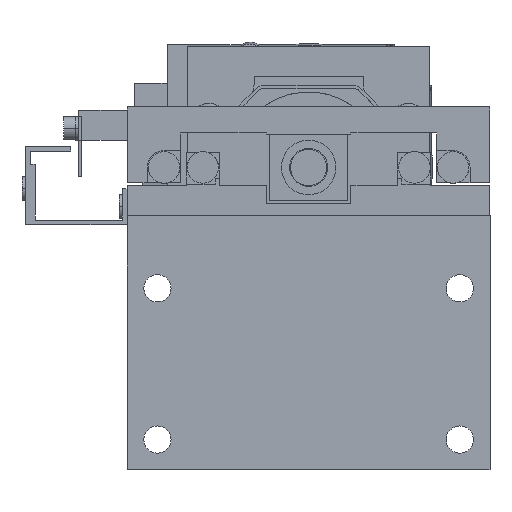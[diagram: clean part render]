
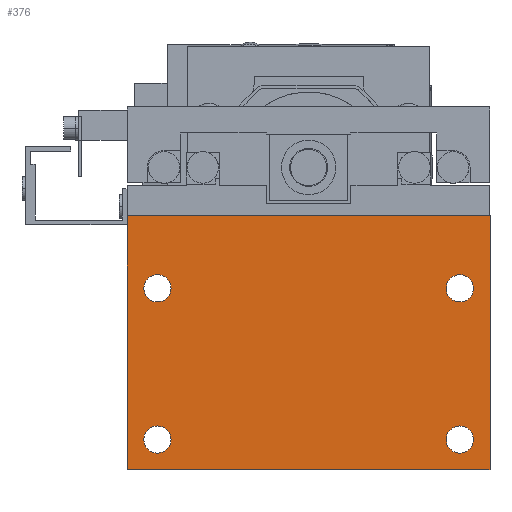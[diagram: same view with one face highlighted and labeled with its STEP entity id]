
A CAD part, front view. The second image highlights one B-rep face of the part: STEP entity #376.
In plain terms, the highlighted planar face has unit normal (0, -1, 0).
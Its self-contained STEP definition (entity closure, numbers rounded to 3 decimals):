
#376=ADVANCED_FACE('',(#1119,#1120,#1121,#1122,#1123),#1124,.F.);
#1119=FACE_BOUND('',#2691,.T.);
#1120=FACE_BOUND('',#2692,.T.);
#1121=FACE_BOUND('',#2693,.T.);
#1122=FACE_BOUND('',#2694,.T.);
#1123=FACE_OUTER_BOUND('',#2695,.T.);
#1124=PLANE('',#2696);
#2691=EDGE_LOOP('',(#4491,#4492));
#2692=EDGE_LOOP('',(#4493,#4494));
#2693=EDGE_LOOP('',(#4495,#4496));
#2694=EDGE_LOOP('',(#4497,#4498));
#2695=EDGE_LOOP('',(#4499,#4500,#4501,#4502));
#2696=AXIS2_PLACEMENT_3D('',#4503,#4504,#4505);
#4491=ORIENTED_EDGE('',*,*,#10308,.F.);
#4492=ORIENTED_EDGE('',*,*,#10259,.F.);
#4493=ORIENTED_EDGE('',*,*,#10309,.F.);
#4494=ORIENTED_EDGE('',*,*,#10291,.F.);
#4495=ORIENTED_EDGE('',*,*,#10310,.F.);
#4496=ORIENTED_EDGE('',*,*,#10299,.F.);
#4497=ORIENTED_EDGE('',*,*,#10311,.F.);
#4498=ORIENTED_EDGE('',*,*,#10295,.F.);
#4499=ORIENTED_EDGE('',*,*,#10312,.T.);
#4500=ORIENTED_EDGE('',*,*,#10313,.F.);
#4501=ORIENTED_EDGE('',*,*,#10314,.F.);
#4502=ORIENTED_EDGE('',*,*,#10305,.T.);
#4503=CARTESIAN_POINT('',(-30.0,0.0,-19.0));
#4504=DIRECTION('',(0.0,1.0,0.0));
#4505=DIRECTION('',(-1.0,0.0,0.0));
#10259=EDGE_CURVE('',#12109,#12105,#12111,.T.);
#10291=EDGE_CURVE('',#12173,#12169,#12175,.T.);
#10295=EDGE_CURVE('',#12181,#12177,#12183,.T.);
#10299=EDGE_CURVE('',#12189,#12185,#12191,.T.);
#10305=EDGE_CURVE('',#12203,#12201,#12204,.T.);
#10308=EDGE_CURVE('',#12105,#12109,#12208,.T.);
#10309=EDGE_CURVE('',#12169,#12173,#12209,.T.);
#10310=EDGE_CURVE('',#12185,#12189,#12210,.T.);
#10311=EDGE_CURVE('',#12177,#12181,#12211,.T.);
#10312=EDGE_CURVE('',#12201,#12212,#12213,.T.);
#10313=EDGE_CURVE('',#12214,#12212,#12215,.T.);
#10314=EDGE_CURVE('',#12203,#12214,#12216,.T.);
#12105=VERTEX_POINT('',#15138);
#12109=VERTEX_POINT('',#15143);
#12111=CIRCLE('',#15146,2.25);
#12169=VERTEX_POINT('',#15218);
#12173=VERTEX_POINT('',#15223);
#12175=CIRCLE('',#15226,2.25);
#12177=VERTEX_POINT('',#15228);
#12181=VERTEX_POINT('',#15233);
#12183=CIRCLE('',#15236,2.25);
#12185=VERTEX_POINT('',#15238);
#12189=VERTEX_POINT('',#15243);
#12191=CIRCLE('',#15246,2.25);
#12201=VERTEX_POINT('',#15258);
#12203=VERTEX_POINT('',#15261);
#12204=LINE('',#15262,#15263);
#12208=CIRCLE('',#15269,2.25);
#12209=CIRCLE('',#15270,2.25);
#12210=CIRCLE('',#15271,2.25);
#12211=CIRCLE('',#15272,2.25);
#12212=VERTEX_POINT('',#15273);
#12213=LINE('',#15274,#15275);
#12214=VERTEX_POINT('',#15276);
#12215=LINE('',#15277,#15278);
#12216=LINE('',#15279,#15280);
#15138=CARTESIAN_POINT('',(25.0,0.0,13.25));
#15143=CARTESIAN_POINT('',(25.0,0.0,8.75));
#15146=AXIS2_PLACEMENT_3D('',#19560,#19561,#19562);
#15218=CARTESIAN_POINT('',(-25.0,0.0,-11.75));
#15223=CARTESIAN_POINT('',(-25.0,0.0,-16.25));
#15226=AXIS2_PLACEMENT_3D('',#19624,#19625,#19626);
#15228=CARTESIAN_POINT('',(-25.0,0.0,13.25));
#15233=CARTESIAN_POINT('',(-25.0,0.0,8.75));
#15236=AXIS2_PLACEMENT_3D('',#19632,#19633,#19634);
#15238=CARTESIAN_POINT('',(25.0,0.0,-11.75));
#15243=CARTESIAN_POINT('',(25.0,0.0,-16.25));
#15246=AXIS2_PLACEMENT_3D('',#19640,#19641,#19642);
#15258=CARTESIAN_POINT('',(30.0,0.0,-19.0));
#15261=CARTESIAN_POINT('',(-30.0,0.0,-19.0));
#15262=CARTESIAN_POINT('',(-30.0,0.0,-19.0));
#15263=VECTOR('',#19652,1000.0);
#15269=AXIS2_PLACEMENT_3D('',#19655,#19656,#19657);
#15270=AXIS2_PLACEMENT_3D('',#19658,#19659,#19660);
#15271=AXIS2_PLACEMENT_3D('',#19661,#19662,#19663);
#15272=AXIS2_PLACEMENT_3D('',#19664,#19665,#19666);
#15273=CARTESIAN_POINT('',(30.0,0.0,23.0));
#15274=CARTESIAN_POINT('',(30.0,0.0,-19.0));
#15275=VECTOR('',#19667,1000.0);
#15276=CARTESIAN_POINT('',(-30.0,0.0,23.0));
#15277=CARTESIAN_POINT('',(-30.0,0.0,23.0));
#15278=VECTOR('',#19668,1000.0);
#15279=CARTESIAN_POINT('',(-30.0,0.0,-19.0));
#15280=VECTOR('',#19669,1000.0);
#19560=CARTESIAN_POINT('',(25.0,0.0,11.0));
#19561=DIRECTION('',(0.0,-1.0,0.0));
#19562=DIRECTION('',(0.0,0.0,1.0));
#19624=CARTESIAN_POINT('',(-25.0,0.0,-14.0));
#19625=DIRECTION('',(0.0,-1.0,0.0));
#19626=DIRECTION('',(0.0,0.0,1.0));
#19632=CARTESIAN_POINT('',(-25.0,0.0,11.0));
#19633=DIRECTION('',(0.0,-1.0,0.0));
#19634=DIRECTION('',(0.0,0.0,1.0));
#19640=CARTESIAN_POINT('',(25.0,0.0,-14.0));
#19641=DIRECTION('',(0.0,-1.0,0.0));
#19642=DIRECTION('',(0.0,0.0,1.0));
#19652=DIRECTION('',(1.0,0.0,0.0));
#19655=CARTESIAN_POINT('',(25.0,0.0,11.0));
#19656=DIRECTION('',(0.0,-1.0,0.0));
#19657=DIRECTION('',(0.0,0.0,1.0));
#19658=CARTESIAN_POINT('',(-25.0,0.0,-14.0));
#19659=DIRECTION('',(0.0,-1.0,0.0));
#19660=DIRECTION('',(0.0,0.0,1.0));
#19661=CARTESIAN_POINT('',(25.0,0.0,-14.0));
#19662=DIRECTION('',(0.0,-1.0,0.0));
#19663=DIRECTION('',(0.0,0.0,1.0));
#19664=CARTESIAN_POINT('',(-25.0,0.0,11.0));
#19665=DIRECTION('',(0.0,-1.0,0.0));
#19666=DIRECTION('',(0.0,0.0,1.0));
#19667=DIRECTION('',(0.0,0.0,1.0));
#19668=DIRECTION('',(1.0,0.0,0.0));
#19669=DIRECTION('',(0.0,0.0,1.0));
